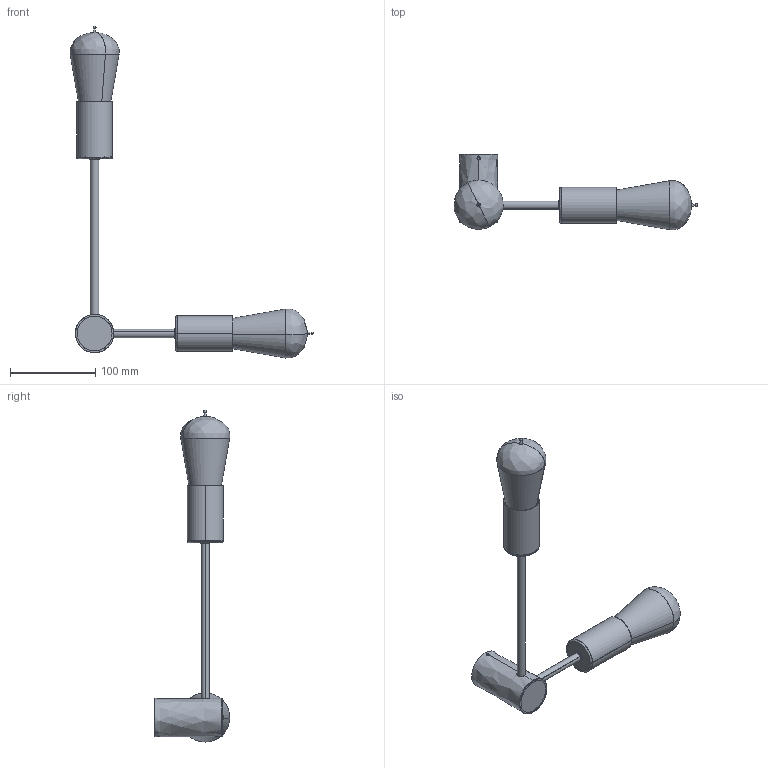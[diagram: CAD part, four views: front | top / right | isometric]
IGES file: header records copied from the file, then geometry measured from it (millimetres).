
Start section: SolidWorks IGES file using analytic representation for surfaces
Global section: file name: Z:\Modele 3D_WWW\_KOLEKCJE_WWW\ROTOR\ROTOR-II-KINKIET-7933\ROTOR-II-KINKIET-7933.IGS; native system: SolidWorks 2021; preprocessor: SolidWorks 2021; author: gabriela.tworek; date: 210714.113615; units: millimetre
Bounding box: 286.17 x 88.97 x 389.68 mm (x, y, z)
Surface area: 121457 mm2 (no closed solid volume)
Topology: 0 solids, 0 shells, 382 faces, 5542 edges, 5524 vertices
Faces by surface type: revolution 246, bspline 136
